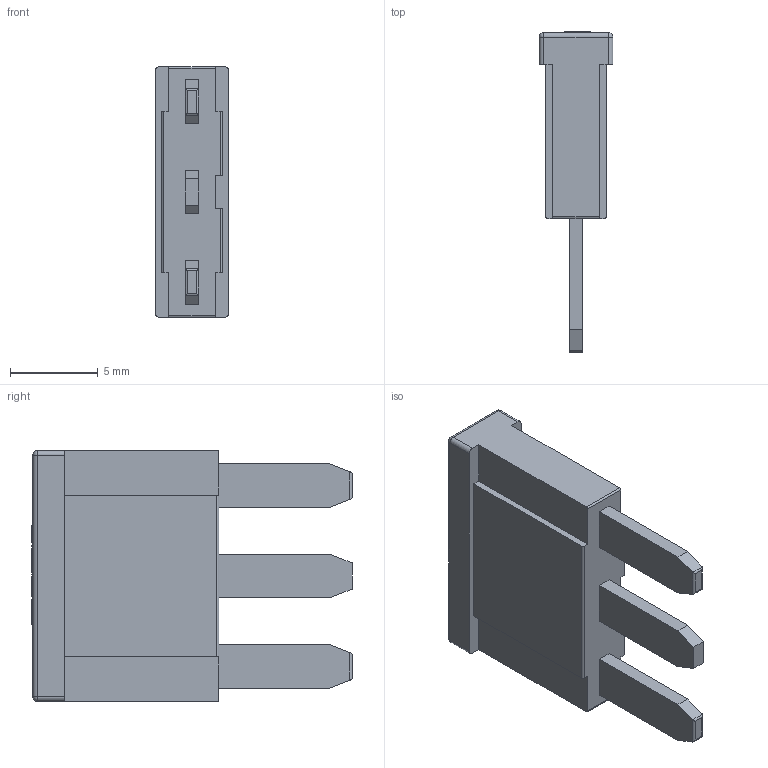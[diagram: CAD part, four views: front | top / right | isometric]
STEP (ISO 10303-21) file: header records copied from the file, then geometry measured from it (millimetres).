
FILE_DESCRIPTION(/* description */ (''),/* implementation_level */ '2;1');
FILE_NAME(/* name */ 'C:\Users\Hani\Desktop\work\ANK\ANK.stp',/* time_stamp */ '2021-10-15T13:41:29-07:00',/* author */ ('Hani'),/* organization */ (''),/* preprocessor_version */ 'ST-DEVELOPER v17',/* originating_system */ 'Autodesk Inventor 2019',/* authorisation */ '');
FILE_SCHEMA (('AUTOMOTIVE_DESIGN { 1 0 10303 214 3 1 1 }'));
Length unit declared in the file: inch
Products named in the file (1): ANK
Bounding box: 4.2 x 18.25 x 14.3 mm (x, y, z)
Volume: 543.1 mm3; surface area: 645.2 mm2
Topology: 1 solids, 1 shells, 204 faces, 549 edges, 362 vertices
Faces by surface type: plane 112, bspline 67, cylinder 21, sphere 4
Entity records: 6941 total; most frequent: CARTESIAN_POINT 2190, ORIENTED_EDGE 1098, DIRECTION 733, EDGE_CURVE 549, LINE 373, VECTOR 373, VERTEX_POINT 362, EDGE_LOOP 219
